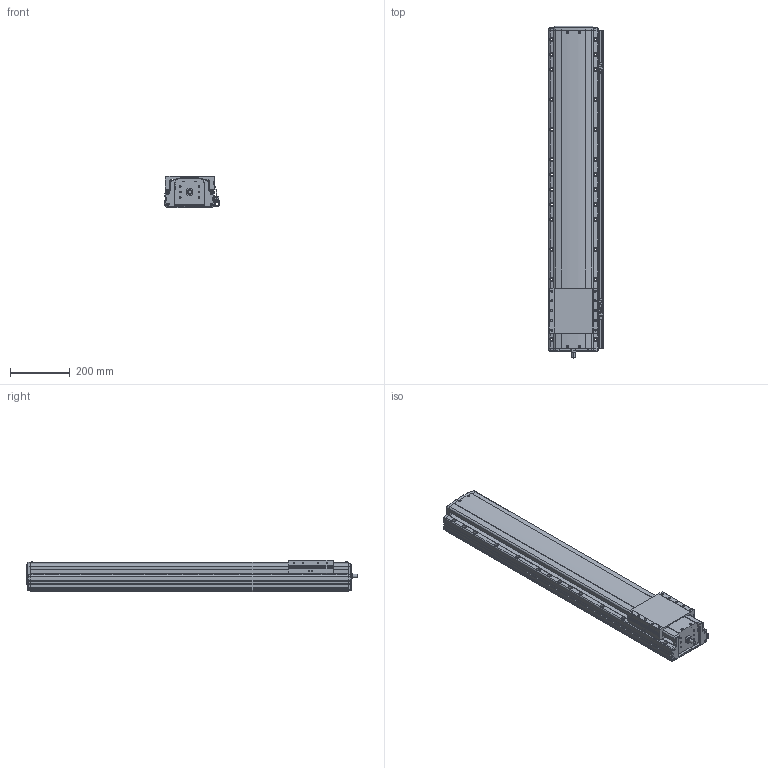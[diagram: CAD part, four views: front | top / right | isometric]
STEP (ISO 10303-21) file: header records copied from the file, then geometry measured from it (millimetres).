
FILE_DESCRIPTION(('STEP AP214'),'1');
FILE_NAME('Z:/Web/3D/PSA165/STP/PSA165-800 (3D)/PSA165ㅁㅁ-800+3SR.stp','2014-06-23T11:47:31',(' '),(' '),'Spatial InterOp 3D',' ',' ');
FILE_SCHEMA(('automotive_design'));
Length unit declared in the file: millimetre
Products named in the file (36): 스크루 : Round - M4.0 x 12.0; RRCV-PA160; BASE; 스크루 : Round - M4.0 x 10.0; RN15; Screw 20; SLIDE; FRCV; M3.0 x 6.0; SRL-16x17-360L; SGD-SAN150; EE-SX674; SBK-SX674-352; 스크루 : Round - M3.0 x 6.0; BHCS M4.0 x 10.0
Bounding box: 181 x 1108.8 x 104 mm (x, y, z)
Volume: 14959183.4 mm3; surface area: 1055682.7 mm2
Topology: 36 solids, 36 shells, 2480 faces, 6681 edges, 4293 vertices
Faces by surface type: plane 1415, cylinder 763, cone 209, sphere 52, bspline 25, torus 16
Entity records: 101022 total; most frequent: CARTESIAN_POINT 17680, DIRECTION 13221, ORIENTED_EDGE 13078, EDGE_CURVE 6539, AXIS2_PLACEMENT_3D 4408, LINE 4405, VECTOR 4405, VERTEX_POINT 4293
